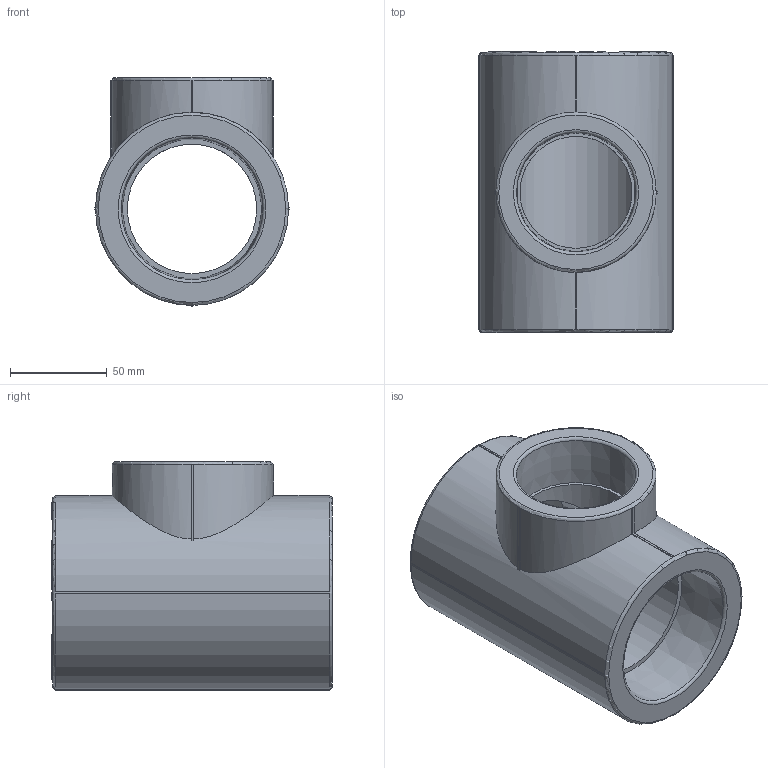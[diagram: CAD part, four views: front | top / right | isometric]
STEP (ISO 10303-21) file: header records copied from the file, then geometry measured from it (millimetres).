
FILE_DESCRIPTION(('STEP AP203'), '1');
FILE_NAME('ÂÐ.752241.074 - VTp.735.0.075063075', '', ('UNSPECIFIED'), ('UNSPECIFIED'), 'C3D Converter', 'C3D Toolkit', '');
FILE_SCHEMA(('CONFIG_CONTROL_DESIGN'));
Length unit declared in the file: millimetre
Products named in the file (1): ВР.752241.074
Bounding box: 101 x 145.5 x 118.5 mm (x, y, z)
Volume: 599924.8 mm3; surface area: 94522.7 mm2
Topology: 1 solids, 1 shells, 1123 faces, 3155 edges, 2095 vertices
Faces by surface type: extrusion 658, plane 421, cylinder 35, torus 6, cone 3
Full cylindrical faces by diameter (mm): 8 x1, 58 x1, 67 x1
Entity records: 42113 total; most frequent: CARTESIAN_POINT 16569, ORIENTED_EDGE 6286, DIRECTION 3165, EDGE_CURVE 3143, VECTOR 2143, VERTEX_POINT 2095, B_SPLINE_CURVE_WITH_KNOTS 1981, LINE 1485
